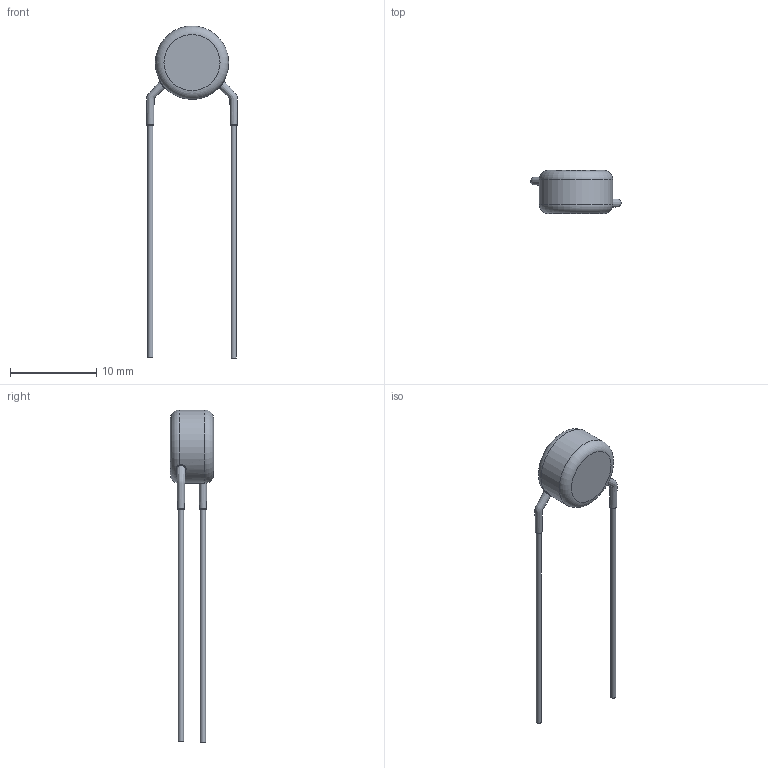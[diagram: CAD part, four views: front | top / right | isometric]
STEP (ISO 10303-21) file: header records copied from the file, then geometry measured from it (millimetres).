
FILE_DESCRIPTION(/* description */ (''),/* implementation_level */ '2;1');
FILE_NAME(/* name */ 'I:\Marketing\M6t1\3D-Models\Zchng-Werk-3\Upload for homepage\BCC neu\AY2 Straight\Step\AY2152#31Y5US63L0.stp',/* time_stamp */ '2023-07-13T14:13:12+02:00',/* author */ ('truediger'),/* organization */ (''),/* preprocessor_version */ 'ST-DEVELOPER v18',/* originating_system */ 'Autodesk Inventor 2020',/* authorisation */ '');
FILE_SCHEMA (('AUTOMOTIVE_DESIGN { 1 0 10303 214 3 1 1 }'));
Length unit declared in the file: millimetre
Products named in the file (1): Bauteil2
Bounding box: 10.54 x 5 x 38.5 mm (x, y, z)
Volume: 294.7 mm3; surface area: 353.6 mm2
Topology: 1 solids, 1 shells, 19 faces, 43 edges, 28 vertices
Faces by surface type: bspline 8, plane 6, cylinder 3, torus 2
Full cylindrical faces by diameter (mm): 0.6 x2, 8.5 x1
Entity records: 1535 total; most frequent: CARTESIAN_POINT 1074, ORIENTED_EDGE 86, DIRECTION 75, EDGE_CURVE 43, AXIS2_PLACEMENT_3D 36, VERTEX_POINT 28, CIRCLE 24, EDGE_LOOP 21
